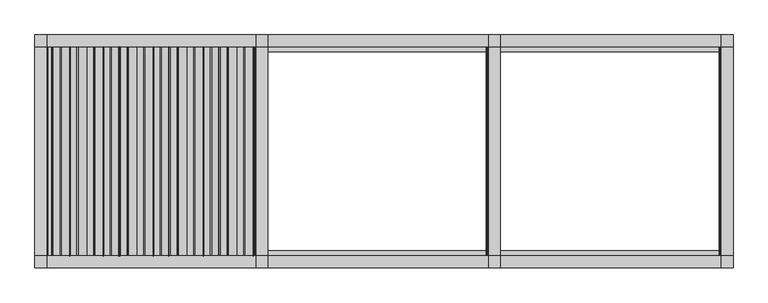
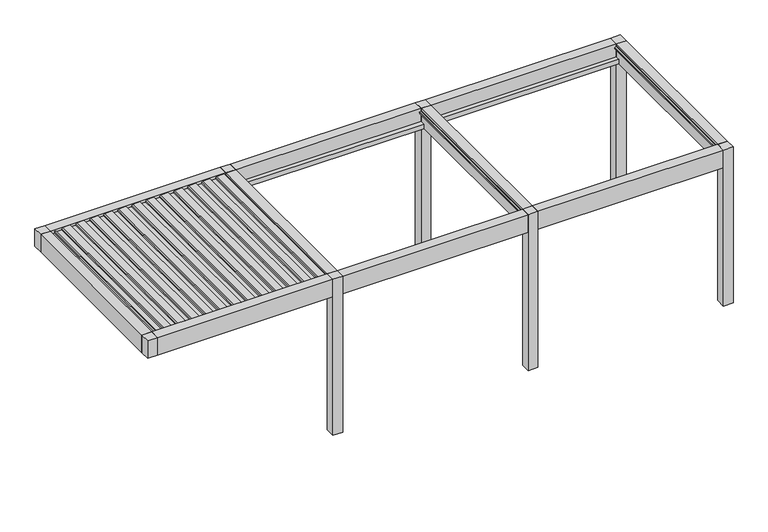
"""IFC4 building model written with IfcOpenShell, lengths in millimetres: proxy geometry, Renson_Amani_Patio_Cover : Renson_Amani_Patio_Cover."""

from ifc_helpers import new_model, si_unit, point, frame, frame_2d, origin, origin_with_axes, place, context, project, spatial, polyline, circle_curve, trimmed, segment, composite_curve, outline, extrude, source, transform, mapped, element, save


def generic_models_32af56f3(model_context):
    return source(origin(), model_context, "Body", "SweptSolid", [
        extrude(outline(composite_curve([segment(polyline([(2483.35, 1073.7289238), (2511.01198, 1076.1490335), (2512.3970364, 1104.984284), (2531.8911096, 1101.5469529), (2526.6075693, 991.549838)]), True, "CONTINUOUS"), segment(trimmed(circle_curve(frame_2d((2511.6248435, 992.26951)), 15.0), [point((2526.6075693, 991.549838))], [point((2514.2295662, 977.4973937))], False, "CARTESIAN"), True, "CONTINUOUS"), segment(polyline([(2514.2295662, 977.4973937), (2495.0, 974.1067023), (2495.0, 886.3709263), (2512.0788237, 883.3594689), (2511.3450182, 868.0824984), (2483.35, 865.6332517), (2483.35, 1073.7289238)]), True, "CONTINUOUS")], self_intersect=False)), frame((0.0, -1350.0, 0.0), z_axis=(0.0, 1.0, 0.0), x_axis=(0.0, 0.0, 1.0)), (0.0, 0.0, 1.0), 2700.0),
        extrude(outline(composite_curve([segment(polyline([(2483.35, 858.7132078), (2511.01198, 861.1333174), (2512.3970364, 889.9685679), (2531.8911096, 886.5312368), (2526.6075693, 776.534122)]), True, "CONTINUOUS"), segment(trimmed(circle_curve(frame_2d((2511.6248435, 777.2537939)), 15.0), [point((2526.6075693, 776.534122))], [point((2514.2295662, 762.4816776))], False, "CARTESIAN"), True, "CONTINUOUS"), segment(polyline([(2514.2295662, 762.4816776), (2495.0, 759.0909863), (2495.0, 671.3552102), (2512.0788237, 668.3437528), (2511.3450182, 653.0667824), (2483.35, 650.6175356), (2483.35, 858.7132078)]), True, "CONTINUOUS")], self_intersect=False)), frame((0.0, -1350.0, 0.0), z_axis=(0.0, 1.0, 0.0), x_axis=(0.0, 0.0, 1.0)), (0.0, 0.0, 1.0), 2700.0),
        extrude(outline(composite_curve([segment(polyline([(2483.35, 643.6974917), (2511.01198, 646.1176014), (2512.3970364, 674.9528519), (2531.8911096, 671.5155208), (2526.6075693, 561.5184059)]), True, "CONTINUOUS"), segment(trimmed(circle_curve(frame_2d((2511.6248435, 562.2380779)), 15.0), [point((2526.6075693, 561.5184059))], [point((2514.2295662, 547.4659616))], False, "CARTESIAN"), True, "CONTINUOUS"), segment(polyline([(2514.2295662, 547.4659616), (2495.0, 544.0752702), (2495.0, 456.3394942), (2512.0788237, 453.3280368), (2511.3450182, 438.0510663), (2483.35, 435.6018196), (2483.35, 643.6974917)]), True, "CONTINUOUS")], self_intersect=False)), frame((0.0, -1350.0, 0.0), z_axis=(0.0, 1.0, 0.0), x_axis=(0.0, 0.0, 1.0)), (0.0, 0.0, 1.0), 2700.0),
        extrude(outline(composite_curve([segment(polyline([(2483.35, 428.6817757), (2511.01198, 431.1018854), (2512.3970364, 459.9371358), (2531.8911096, 456.4998047), (2526.6075693, 346.5026899)]), True, "CONTINUOUS"), segment(trimmed(circle_curve(frame_2d((2511.6248435, 347.2223618)), 15.0), [point((2526.6075693, 346.5026899))], [point((2514.2295662, 332.4502455))], False, "CARTESIAN"), True, "CONTINUOUS"), segment(polyline([(2514.2295662, 332.4502455), (2495.0, 329.0595542), (2495.0, 241.3237782), (2512.0788237, 238.3123207), (2511.3450182, 223.0353503), (2483.35, 220.5861035), (2483.35, 428.6817757)]), True, "CONTINUOUS")], self_intersect=False)), frame((0.0, -1350.0, 0.0), z_axis=(0.0, 1.0, 0.0), x_axis=(0.0, 0.0, 1.0)), (0.0, 0.0, 1.0), 2700.0),
        extrude(outline(composite_curve([segment(polyline([(2483.35, 213.6660597), (2511.01198, 216.0861693), (2512.3970364, 244.9214198), (2531.8911096, 241.4840887), (2526.6075693, 131.4869738)]), True, "CONTINUOUS"), segment(trimmed(circle_curve(frame_2d((2511.6248435, 132.2066458)), 15.0), [point((2526.6075693, 131.4869738))], [point((2514.2295662, 117.4345295))], False, "CARTESIAN"), True, "CONTINUOUS"), segment(polyline([(2514.2295662, 117.4345295), (2495.0, 114.0438381), (2495.0, 26.3080621), (2512.0788237, 23.2966047), (2511.3450182, 8.0196342), (2483.35, 5.5703875), (2483.35, 213.6660597)]), True, "CONTINUOUS")], self_intersect=False)), frame((0.0, -1350.0, 0.0), z_axis=(0.0, 1.0, 0.0), x_axis=(0.0, 0.0, 1.0)), (0.0, 0.0, 1.0), 2700.0),
        extrude(outline(composite_curve([segment(polyline([(2483.35, -1.3496564), (2511.01198, 1.0704533), (2512.3970364, 29.9057037), (2531.8911096, 26.4683726), (2526.6075693, -83.5287422)]), True, "CONTINUOUS"), segment(trimmed(circle_curve(frame_2d((2511.6248435, -82.8090703)), 15.0), [point((2526.6075693, -83.5287422))], [point((2514.2295662, -97.5811866))], False, "CARTESIAN"), True, "CONTINUOUS"), segment(polyline([(2514.2295662, -97.5811866), (2495.0, -100.9718779), (2495.0, -188.7076539), (2512.0788237, -191.7191114), (2511.3450182, -206.9960818), (2483.35, -209.4453286), (2483.35, -1.3496564)]), True, "CONTINUOUS")], self_intersect=False)), frame((0.0, -1350.0, 0.0), z_axis=(0.0, 1.0, 0.0), x_axis=(0.0, 0.0, 1.0)), (0.0, 0.0, 1.0), 2700.0),
        extrude(outline(composite_curve([segment(polyline([(2483.35, -216.3653724), (2511.01198, -213.9452628), (2512.3970364, -185.1100123), (2531.8911096, -188.5473434), (2526.6075693, -298.5444582)]), True, "CONTINUOUS"), segment(trimmed(circle_curve(frame_2d((2511.6248435, -297.8247863)), 15.0), [point((2526.6075693, -298.5444582))], [point((2514.2295662, -312.5969026))], False, "CARTESIAN"), True, "CONTINUOUS"), segment(polyline([(2514.2295662, -312.5969026), (2495.0, -315.987594), (2495.0, -403.72337), (2512.0788237, -406.7348274), (2511.3450182, -422.0117979), (2483.35, -424.4610446), (2483.35, -216.3653724)]), True, "CONTINUOUS")], self_intersect=False)), frame((0.0, -1350.0, 0.0), z_axis=(0.0, 1.0, 0.0), x_axis=(0.0, 0.0, 1.0)), (0.0, 0.0, 1.0), 2700.0),
        extrude(outline(composite_curve([segment(polyline([(2483.35, -431.3810885), (2511.01198, -428.9609788), (2512.3970364, -400.1257284), (2531.8911096, -403.5630594), (2526.6075693, -513.5601743)]), True, "CONTINUOUS"), segment(trimmed(circle_curve(frame_2d((2511.6248435, -512.8405024)), 15.0), [point((2526.6075693, -513.5601743))], [point((2514.2295662, -527.6126187))], False, "CARTESIAN"), True, "CONTINUOUS"), segment(polyline([(2514.2295662, -527.6126187), (2495.0, -531.00331), (2495.0, -618.739086), (2512.0788237, -621.7505434), (2511.3450182, -637.0275139), (2483.35, -639.4767606), (2483.35, -431.3810885)]), True, "CONTINUOUS")], self_intersect=False)), frame((0.0, -1350.0, 0.0), z_axis=(0.0, 1.0, 0.0), x_axis=(0.0, 0.0, 1.0)), (0.0, 0.0, 1.0), 2700.0),
        extrude(outline(composite_curve([segment(polyline([(2483.35, -646.3968045), (2511.01198, -643.9766949), (2512.3970364, -615.1414444), (2531.8911096, -618.5787755), (2526.6075693, -728.5758903)]), True, "CONTINUOUS"), segment(trimmed(circle_curve(frame_2d((2511.6248435, -727.8562184)), 15.0), [point((2526.6075693, -728.5758903))], [point((2514.2295662, -742.6283347))], False, "CARTESIAN"), True, "CONTINUOUS"), segment(polyline([(2514.2295662, -742.6283347), (2495.0, -746.019026), (2495.0, -833.7548021), (2512.0788237, -836.7662595), (2511.3450182, -852.04323), (2483.35, -854.4924767), (2483.35, -646.3968045)]), True, "CONTINUOUS")], self_intersect=False)), frame((0.0, -1350.0, 0.0), z_axis=(0.0, 1.0, 0.0), x_axis=(0.0, 0.0, 1.0)), (0.0, 0.0, 1.0), 2700.0),
        extrude(outline(composite_curve([segment(polyline([(2483.35, -861.4125206), (2511.01198, -858.9924109), (2512.3970364, -830.1571605), (2531.8911096, -833.5944915), (2526.6075693, -943.5916064)]), True, "CONTINUOUS"), segment(trimmed(circle_curve(frame_2d((2511.6248435, -942.8719345)), 15.0), [point((2526.6075693, -943.5916064))], [point((2514.2295662, -957.6440508))], False, "CARTESIAN"), True, "CONTINUOUS"), segment(polyline([(2514.2295662, -957.6440508), (2495.0, -961.0347421), (2495.0, -1048.7705181), (2512.0788237, -1051.7819755), (2511.3450182, -1067.058946), (2483.35, -1069.5081927), (2483.35, -861.4125206)]), True, "CONTINUOUS")], self_intersect=False)), frame((0.0, -1350.0, 0.0), z_axis=(0.0, 1.0, 0.0), x_axis=(0.0, 0.0, 1.0)), (0.0, 0.0, 1.0), 2700.0),
        extrude(outline(composite_curve([segment(polyline([(2483.35, 1288.7446399), (2511.01198, 1291.1647495), (2512.3970364, 1320.0), (2531.8911096, 1316.5626689), (2526.6075693, 1206.5655541)]), True, "CONTINUOUS"), segment(trimmed(circle_curve(frame_2d((2511.6248435, 1207.285226)), 15.0), [point((2526.6075693, 1206.5655541))], [point((2514.2295662, 1192.5131097))], False, "CARTESIAN"), True, "CONTINUOUS"), segment(polyline([(2514.2295662, 1192.5131097), (2495.0, 1189.1224184), (2495.0, 1101.3866423), (2512.0788237, 1098.3751849), (2511.3450182, 1083.0982144), (2483.35, 1080.6489677), (2483.35, 1288.7446399)]), True, "CONTINUOUS")], self_intersect=False)), frame((0.0, -1350.0, 0.0), z_axis=(0.0, 1.0, 0.0), x_axis=(0.0, 0.0, 1.0)), (0.0, 0.0, 1.0), 2700.0),
        extrude(outline(composite_curve([segment(polyline([(2483.35, -1076.4282366), (2511.01198, -1074.008127), (2512.3970364, -1045.1728765), (2531.8911096, -1048.6102076), (2526.6075693, -1158.6073224)]), True, "CONTINUOUS"), segment(trimmed(circle_curve(frame_2d((2511.6248435, -1157.8876505)), 15.0), [point((2526.6075693, -1158.6073224))], [point((2514.2295662, -1172.6597668))], False, "CARTESIAN"), True, "CONTINUOUS"), segment(polyline([(2514.2295662, -1172.6597668), (2495.0, -1176.0504581), (2495.0, -1263.7862342), (2512.0788237, -1266.7976916), (2511.3450182, -1282.0746621), (2483.35, -1284.5239088), (2483.35, -1076.4282366)]), True, "CONTINUOUS")], self_intersect=False)), frame((0.0, -1350.0, 0.0), z_axis=(0.0, 1.0, 0.0), x_axis=(0.0, 0.0, 1.0)), (0.0, 0.0, 1.0), 2700.0),
        extrude(outline(polyline([(7500.0, -1350.0), (7500.0, -1500.0), (7350.0, -1500.0), (7350.0, -1350.0), (7500.0, -1350.0)])), origin_with_axes(), (0.0, 0.0, 1.0), 2535.0),
        extrude(outline(polyline([(7500.0, 1500.0), (7500.0, 1350.0), (7350.0, 1350.0), (7350.0, 1500.0), (7500.0, 1500.0)])), origin_with_axes(), (0.0, 0.0, 1.0), 2535.0),
        extrude(outline(polyline([(4500.0, 1500.0), (4500.0, 1350.0), (4350.0, 1350.0), (4350.0, 1500.0), (4500.0, 1500.0)])), origin_with_axes(), (0.0, 0.0, 1.0), 2535.0),
        extrude(outline(polyline([(-1350.0, 1500.0), (-1350.0, 1350.0), (-1500.0, 1350.0), (-1500.0, 1500.0), (-1350.0, 1500.0)])), frame((0.0, 0.0, 2250.0), z_axis=(0.0, 0.0, 1.0), x_axis=(1.0, 0.0, 0.0)), (0.0, 0.0, 1.0), 285.0),
        extrude(outline(polyline([(-1350.0, -1500.0), (-1500.0, -1500.0), (-1500.0, -1350.0), (-1350.0, -1350.0), (-1350.0, -1500.0)])), frame((0.0, 0.0, 2250.0), z_axis=(0.0, 0.0, 1.0), x_axis=(1.0, 0.0, 0.0)), (0.0, 0.0, 1.0), 285.0),
        extrude(outline(polyline([(4500.0, -1350.0), (4500.0, -1500.0), (4350.0, -1500.0), (4350.0, -1350.0), (4500.0, -1350.0)])), origin_with_axes(), (0.0, 0.0, 1.0), 2535.0),
        extrude(outline(polyline([(1500.0, -1350.0), (1500.0, -1500.0), (1350.0, -1500.0), (1350.0, -1350.0), (1500.0, -1350.0)])), origin_with_axes(), (0.0, 0.0, 1.0), 2535.0),
        extrude(outline(polyline([(1500.0, 1500.0), (1500.0, 1350.0), (1350.0, 1350.0), (1350.0, 1500.0), (1500.0, 1500.0)])), origin_with_axes(), (0.0, 0.0, 1.0), 2535.0),
        extrude(outline(polyline([(-1350.0, 2535.0), (-1350.0, 2322.0), (-1280.0000001, 2322.0), (-1280.0000001, 2250.0), (-1500.0, 2250.0), (-1500.0, 2535.0), (-1350.0, 2535.0)])), frame((4500.0, 0.0, 0.0), z_axis=(1.0, 0.0, 0.0), x_axis=(0.0, 1.0, 0.0)), (0.0, 0.0, 1.0), 2850.0),
        extrude(outline(polyline([(1500.0, 2250.0), (1280.0000001, 2250.0), (1280.0000001, 2322.0), (1350.0, 2322.0), (1350.0, 2535.0), (1500.0, 2535.0), (1500.0, 2250.0)])), frame((4500.0, 0.0, 0.0), z_axis=(1.0, 0.0, 0.0), x_axis=(0.0, 1.0, 0.0)), (0.0, 0.0, 1.0), 2850.0),
        extrude(outline(polyline([(2535.0, 7500.0), (2535.0, 7350.0), (2504.6823598, 7350.0), (2504.2449277, 7345.0), (2496.400763, 7345.0), (2480.6555802, 7329.2544156), (2480.6555802, 7319.9090324), (2466.6559373, 7323.6603211), (2466.6559373, 7350.0), (2250.0, 7350.0), (2250.0, 7500.0), (2535.0, 7500.0)])), frame((0.0, -1350.0, 0.0), z_axis=(0.0, 1.0, 0.0), x_axis=(0.0, 0.0, 1.0)), (0.0, 0.0, 1.0), 2700.0),
        extrude(outline(polyline([(-1350.0, 2535.0), (-1350.0, 2322.0), (-1280.0000001, 2322.0), (-1280.0000001, 2250.0), (-1500.0, 2250.0), (-1500.0, 2535.0), (-1350.0, 2535.0)])), frame((1500.0, 0.0, 0.0), z_axis=(1.0, 0.0, 0.0), x_axis=(0.0, 1.0, 0.0)), (0.0, 0.0, 1.0), 2850.0),
        extrude(outline(polyline([(1500.0, 2250.0), (1280.0000001, 2250.0), (1280.0000001, 2322.0), (1350.0, 2322.0), (1350.0, 2535.0), (1500.0, 2535.0), (1500.0, 2250.0)])), frame((1500.0, 0.0, 0.0), z_axis=(1.0, 0.0, 0.0), x_axis=(0.0, 1.0, 0.0)), (0.0, 0.0, 1.0), 2850.0),
        extrude(outline(polyline([(2535.0, 4500.0), (2535.0, 4350.0), (2504.6823598, 4350.0), (2504.2449277, 4345.0), (2496.400763, 4345.0), (2480.6555802, 4329.2544156), (2480.6555802, 4319.9090324), (2466.6559373, 4323.6603211), (2466.6559373, 4350.0), (2250.0, 4350.0), (2250.0, 4500.0), (2535.0, 4500.0)])), frame((0.0, -1350.0, 0.0), z_axis=(0.0, 1.0, 0.0), x_axis=(0.0, 0.0, 1.0)), (0.0, 0.0, 1.0), 2700.0),
        extrude(outline(polyline([(2466.6559373, -1350.0), (2466.6559373, -1290.0), (2480.6555802, -1286.2487113), (2480.6555802, -1329.5940945), (2496.400763, -1345.0), (2504.2449277, -1345.0), (2504.6823598, -1350.0), (2466.6559373, -1350.0)])), frame((0.0, -1350.0, 0.0), z_axis=(0.0, 1.0, 0.0), x_axis=(0.0, 0.0, 1.0)), (0.0, 0.0, 1.0), 2700.0),
        extrude(outline(polyline([(-1350.0, -1350.0), (-1500.0, -1350.0), (-1500.0, 1350.0), (-1350.0, 1350.0), (-1350.0, -1350.0)])), frame((0.0, 0.0, 2250.0), z_axis=(0.0, 0.0, 1.0), x_axis=(1.0, 0.0, 0.0)), (0.0, 0.0, 1.0), 285.0),
        extrude(outline(polyline([(2535.0, 1500.0), (2535.0, 1350.0), (2504.6904658, 1350.0), (2504.2449277, 1345.0), (2496.400763, 1345.0), (2480.6555802, 1329.2544156), (2480.6555802, 1319.9090324), (2466.6559373, 1323.6603211), (2466.6559373, 1350.0), (2250.0, 1350.0), (2250.0, 1500.0), (2535.0, 1500.0)])), frame((0.0, -1350.0, 0.0), z_axis=(0.0, 1.0, 0.0), x_axis=(0.0, 0.0, 1.0)), (0.0, 0.0, 1.0), 2700.0),
        extrude(outline(polyline([(-1350.0, 2535.0), (-1350.0, 2322.0), (-1280.0000001, 2322.0), (-1280.0000001, 2250.0), (-1500.0, 2250.0), (-1500.0, 2535.0), (-1350.0, 2535.0)])), frame((-1350.0, 0.0, 0.0), z_axis=(1.0, 0.0, 0.0), x_axis=(0.0, 1.0, 0.0)), (0.0, 0.0, 1.0), 2700.0),
        extrude(outline(polyline([(1500.0, 2250.0), (1280.0000001, 2250.0), (1280.0000001, 2322.0), (1350.0, 2322.0), (1350.0, 2535.0), (1500.0, 2535.0), (1500.0, 2250.0)])), frame((-1350.0, 0.0, 0.0), z_axis=(1.0, 0.0, 0.0), x_axis=(0.0, 1.0, 0.0)), (0.0, 0.0, 1.0), 2700.0),
    ])


if __name__ == "__main__":
    model = new_model("IFC4")
    model_context = context("Model", 3, world=origin())
    ifc_project = project(units=[si_unit("LENGTHUNIT", "METRE", prefix="MILLI")], contexts=[model_context])
    site = spatial("IfcSite", under=ifc_project)
    building = spatial("IfcBuilding", under=site)
    placement = place(None, origin())
    generic_models_shape = generic_models_32af56f3(model_context)
    element("IfcBuildingElementProxy", 1, Name="Renson_Amani_Patio_Cover : Renson_Amani_Patio_Cover", ObjectType="Renson_Amani_Patio_Cover : Renson_Amani_Patio_Cover", at=placement, inside=building, context=model_context, shape_type="MappedRepresentation", body=[
        mapped(generic_models_shape, transform((0.0, 0.0, 0.0), x_axis=(1.0, 0.0, 0.0), y_axis=(0.0, 1.0, 0.0), z_axis=(0.0, 0.0, 1.0))),
    ])
    save(model, "model.ifc")
